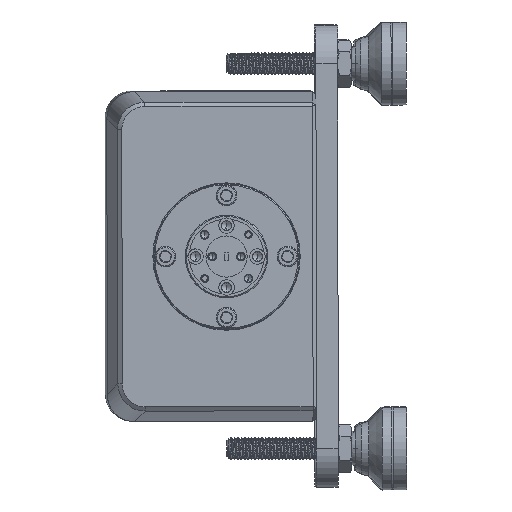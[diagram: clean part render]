
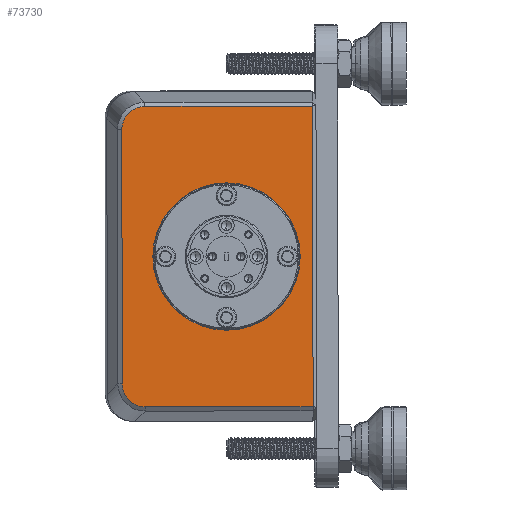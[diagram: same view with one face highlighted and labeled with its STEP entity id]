
A CAD part, left-side view. The second image highlights one B-rep face of the part: STEP entity #73730.
In plain terms, the highlighted planar face has unit normal (-1, -0.002, -0.001).
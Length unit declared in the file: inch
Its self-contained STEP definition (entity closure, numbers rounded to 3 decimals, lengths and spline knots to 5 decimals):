
#322 = CARTESIAN_POINT ( 'NONE',  ( -3.34512, -6.66536, -0.13572 ) ) ;
#797 = ORIENTED_EDGE ( 'NONE', *, *, #77321, .F. ) ;
#1693 = CARTESIAN_POINT ( 'NONE',  ( -3.34365, -6.77209, -2.65813 ) ) ;
#1850 = EDGE_CURVE ( 'NONE', #85358, #122478, #71787, .T. ) ;
#5516 = AXIS2_PLACEMENT_3D ( 'NONE', #69890, #130213, #39796 ) ;
#8968 = VECTOR ( 'NONE', #38854, 39.37008 ) ;
#11584 = CIRCLE ( 'NONE', #17952, 0.67 ) ;
#11656 = CARTESIAN_POINT ( 'NONE',  ( -3.34302, -7.61697, -1.31819 ) ) ;
#12439 = CARTESIAN_POINT ( 'NONE',  ( -3.34369, -6.74883, -2.64268 ) ) ;
#13104 = CARTESIAN_POINT ( 'NONE',  ( -3.34252, -7.48374, -2.68344 ) ) ;
#13749 = CARTESIAN_POINT ( 'NONE',  ( -3.34356, -6.82259, -2.67887 ) ) ;
#14394 = CARTESIAN_POINT ( 'NONE',  ( -3.34391, -6.6684, -2.47558 ) ) ;
#17952 = AXIS2_PLACEMENT_3D ( 'NONE', #11656, #70586, #61195 ) ;
#22762 = CARTESIAN_POINT ( 'NONE',  ( -3.34251, -8.4002, 0.0479 ) ) ;
#24440 = CARTESIAN_POINT ( 'NONE',  ( -3.34347, -6.87759, -2.68423 ) ) ;
#24931 = EDGE_CURVE ( 'NONE', #99622, #85358, #55318, .T. ) ;
#28178 = LINE ( 'NONE', #101766, #8968 ) ;
#28560 = CARTESIAN_POINT ( 'NONE',  ( -3.34511, -6.6654, -0.16327 ) ) ;
#29613 = DIRECTION ( 'NONE',  ( 1., 0.002, 0.001 ) ) ;
#30137 = VERTEX_POINT ( 'NONE', #78867 ) ;
#30547 = CARTESIAN_POINT ( 'NONE',  ( -3.34504, -6.76862, 0.01956 ) ) ;
#30914 = DIRECTION ( 'NONE',  ( 0.001, -0.001, -1. ) ) ;
#31926 = VECTOR ( 'NONE', #104248, 39.37008 ) ;
#33619 = EDGE_CURVE ( 'NONE', #63830, #30137, #11584, .T. ) ;
#35383 = VERTEX_POINT ( 'NONE', #66244 ) ;
#36394 = EDGE_CURVE ( 'NONE', #115987, #35383, #104834, .T. ) ;
#38854 = DIRECTION ( 'NONE',  ( -0.001, 0.001, 1. ) ) ;
#39239 = CARTESIAN_POINT ( 'NONE',  ( -3.34512, -6.6915, -0.05777 ) ) ;
#39796 = DIRECTION ( 'NONE',  ( -0.001, 0.001, 1. ) ) ;
#39898 = CARTESIAN_POINT ( 'NONE',  ( -3.34494, -6.84656, 0.04589 ) ) ;
#41176 = EDGE_CURVE ( 'NONE', #35383, #99622, #28178, .T. ) ;
#41961 = CARTESIAN_POINT ( 'NONE',  ( -3.34337, -7.6161, -0.64819 ) ) ;
#42554 = CARTESIAN_POINT ( 'NONE',  ( -3.34381, -6.69476, -2.58101 ) ) ;
#52260 = FACE_OUTER_BOUND ( 'NONE', #75222, .T. ) ;
#53946 = LINE ( 'NONE', #64584, #117296 ) ;
#55318 = LINE ( 'NONE', #63341, #31926 ) ;
#60582 = CARTESIAN_POINT ( 'NONE',  ( -3.34511, -6.70695, -0.03451 ) ) ;
#61195 = DIRECTION ( 'NONE',  ( -0.001, 0.001, 1. ) ) ;
#62251 = CARTESIAN_POINT ( 'NONE',  ( -3.34323, -7.48197, -1.31837 ) ) ;
#63201 = CIRCLE ( 'NONE', #5516, 0.67 ) ;
#63341 = CARTESIAN_POINT ( 'NONE',  ( -3.34394, -7.4802, 0.04671 ) ) ;
#63830 = VERTEX_POINT ( 'NONE', #41961 ) ;
#64576 = CARTESIAN_POINT ( 'NONE',  ( -3.34387, -6.6739, -2.53056 ) ) ;
#64584 = CARTESIAN_POINT ( 'NONE',  ( -3.34451, -6.6669, -1.31942 ) ) ;
#65193 = CARTESIAN_POINT ( 'NONE',  ( -3.34511, -6.6654, -0.16327 ) ) ;
#66244 = CARTESIAN_POINT ( 'NONE',  ( -3.34109, -8.40374, -2.68225 ) ) ;
#69890 = CARTESIAN_POINT ( 'NONE',  ( -3.34302, -7.61697, -1.31819 ) ) ;
#70251 = ORIENTED_EDGE ( 'NONE', *, *, #94289, .T. ) ;
#70586 = DIRECTION ( 'NONE',  ( -1., -0.002, -0.001 ) ) ;
#71666 = CARTESIAN_POINT ( 'NONE',  ( -3.34489, -6.87405, 0.04592 ) ) ;
#71787 = B_SPLINE_CURVE_WITH_KNOTS ( 'NONE', 3,
 ( #132288, #39898, #80677, #30547, #92015, #60582, #39239, #80005, #322, #28560 ),
 .UNSPECIFIED., .F., .F.,
 ( 4, 2, 2, 2, 4 ),
 ( 0., 0.25, 0.5, 0.75, 1. ),
 .UNSPECIFIED. ) ;
#73454 = CARTESIAN_POINT ( 'NONE',  ( -3.34347, -6.87759, -2.68423 ) ) ;
#73730 = ADVANCED_FACE ( 'NONE', ( #52260, #122659 ), #123321, .F. ) ;
#74657 = DIRECTION ( 'NONE',  ( 0.001, -0.001, -1. ) ) ;
#75222 = EDGE_LOOP ( 'NONE', ( #84301, #97420, #109197, #92573, #80213, #70251 ) ) ;
#75297 = EDGE_CURVE ( 'NONE', #120920, #115987, #85635, .T. ) ;
#77321 = EDGE_CURVE ( 'NONE', #30137, #63830, #63201, .T. ) ;
#78867 = CARTESIAN_POINT ( 'NONE',  ( -3.34267, -7.61784, -1.98819 ) ) ;
#80005 = CARTESIAN_POINT ( 'NONE',  ( -3.34513, -6.67076, -0.10827 ) ) ;
#80213 = ORIENTED_EDGE ( 'NONE', *, *, #1850, .T. ) ;
#80677 = CARTESIAN_POINT ( 'NONE',  ( -3.34498, -6.81907, 0.04042 ) ) ;
#82454 = VECTOR ( 'NONE', #84017, 39.37008 ) ;
#84017 = DIRECTION ( 'NONE',  ( 0.002, -1., 0.001 ) ) ;
#84301 = ORIENTED_EDGE ( 'NONE', *, *, #75297, .T. ) ;
#84340 = AXIS2_PLACEMENT_3D ( 'NONE', #62251, #29613, #30914 ) ;
#85358 = VERTEX_POINT ( 'NONE', #71666 ) ;
#85635 = B_SPLINE_CURVE_WITH_KNOTS ( 'NONE', 3,
 ( #14394, #93407, #64576, #42554, #105460, #12439, #1693, #13749, #95382, #24440 ),
 .UNSPECIFIED., .F., .F.,
 ( 4, 2, 2, 2, 4 ),
 ( 0., 0.25, 0.5, 0.75, 1. ),
 .UNSPECIFIED. ) ;
#88838 = EDGE_LOOP ( 'NONE', ( #105028, #797 ) ) ;
#92015 = CARTESIAN_POINT ( 'NONE',  ( -3.34507, -6.74541, 0.00403 ) ) ;
#92573 = ORIENTED_EDGE ( 'NONE', *, *, #24931, .T. ) ;
#93407 = CARTESIAN_POINT ( 'NONE',  ( -3.34389, -6.66843, -2.50307 ) ) ;
#94289 = EDGE_CURVE ( 'NONE', #122478, #120920, #53946, .T. ) ;
#95382 = CARTESIAN_POINT ( 'NONE',  ( -3.34351, -6.85004, -2.68427 ) ) ;
#97420 = ORIENTED_EDGE ( 'NONE', *, *, #36394, .T. ) ;
#99622 = VERTEX_POINT ( 'NONE', #22762 ) ;
#101766 = CARTESIAN_POINT ( 'NONE',  ( -3.3418, -8.40197, -1.31717 ) ) ;
#104248 = DIRECTION ( 'NONE',  ( -0.002, 1., -0.001 ) ) ;
#104834 = LINE ( 'NONE', #13104, #82454 ) ;
#105028 = ORIENTED_EDGE ( 'NONE', *, *, #33619, .F. ) ;
#105460 = CARTESIAN_POINT ( 'NONE',  ( -3.34377, -6.71028, -2.60422 ) ) ;
#109197 = ORIENTED_EDGE ( 'NONE', *, *, #41176, .T. ) ;
#115987 = VERTEX_POINT ( 'NONE', #73454 ) ;
#117296 = VECTOR ( 'NONE', #74657, 39.37008 ) ;
#117427 = CARTESIAN_POINT ( 'NONE',  ( -3.34391, -6.6684, -2.47558 ) ) ;
#120920 = VERTEX_POINT ( 'NONE', #117427 ) ;
#122478 = VERTEX_POINT ( 'NONE', #65193 ) ;
#122659 = FACE_BOUND ( 'NONE', #88838, .T. ) ;
#123321 = PLANE ( 'NONE',  #84340 ) ;
#130213 = DIRECTION ( 'NONE',  ( -1., -0.002, -0.001 ) ) ;
#132288 = CARTESIAN_POINT ( 'NONE',  ( -3.34489, -6.87405, 0.04592 ) ) ;
